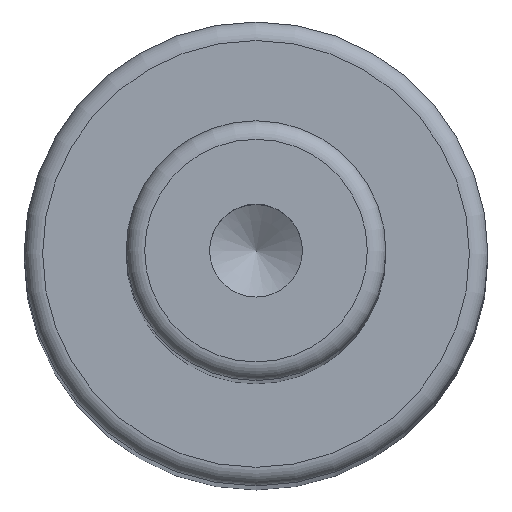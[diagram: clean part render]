
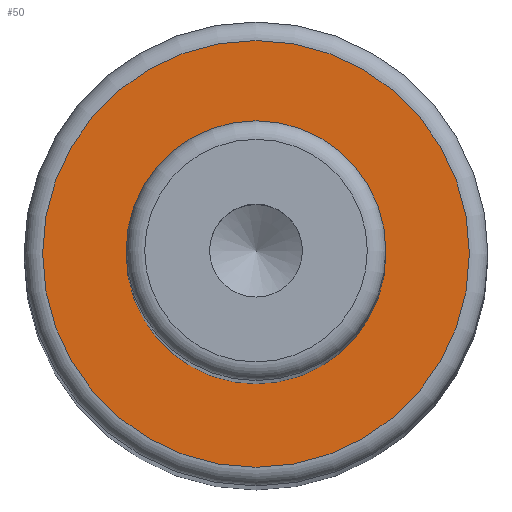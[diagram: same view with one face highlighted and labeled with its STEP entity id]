
A CAD part, top view. The second image highlights one B-rep face of the part: STEP entity #50.
In plain terms, the highlighted planar face has unit normal (0, 0, 1).
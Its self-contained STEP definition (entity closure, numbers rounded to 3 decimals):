
#40=PLANE('',#179);
#50=ADVANCED_FACE('',(#72,#73),#40,.F.);
#72=FACE_BOUND('',#96,.T.);
#73=FACE_BOUND('',#97,.T.);
#96=EDGE_LOOP('',(#118));
#97=EDGE_LOOP('',(#119));
#118=ORIENTED_EDGE('',*,*,#149,.F.);
#119=ORIENTED_EDGE('',*,*,#148,.T.);
#135=VERTEX_POINT('',#256);
#136=VERTEX_POINT('',#259);
#148=EDGE_CURVE('',#135,#135,#159,.T.);
#149=EDGE_CURVE('',#136,#136,#160,.T.);
#159=CIRCLE('',#176,7.);
#160=CIRCLE('',#178,11.5);
#176=AXIS2_PLACEMENT_3D('',#255,#213,#214);
#178=AXIS2_PLACEMENT_3D('',#258,#217,#218);
#179=AXIS2_PLACEMENT_3D('',#260,#219,#220);
#213=DIRECTION('',(0.,0.,-1.));
#214=DIRECTION('',(-1.,0.,0.));
#217=DIRECTION('',(0.,0.,-1.));
#218=DIRECTION('',(-1.,0.,0.));
#219=DIRECTION('',(0.,0.,-1.));
#220=DIRECTION('',(-1.,0.,0.));
#255=CARTESIAN_POINT('',(0.,0.,129.));
#256=CARTESIAN_POINT('',(-7.,0.,129.));
#258=CARTESIAN_POINT('',(0.,0.,129.));
#259=CARTESIAN_POINT('',(-11.5,0.,129.));
#260=CARTESIAN_POINT('',(7.,0.,129.));
